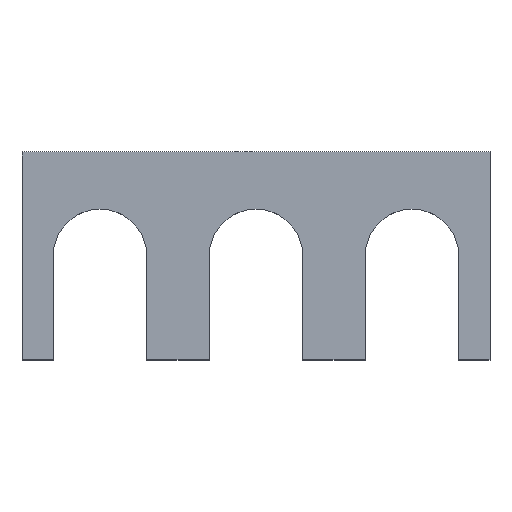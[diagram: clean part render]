
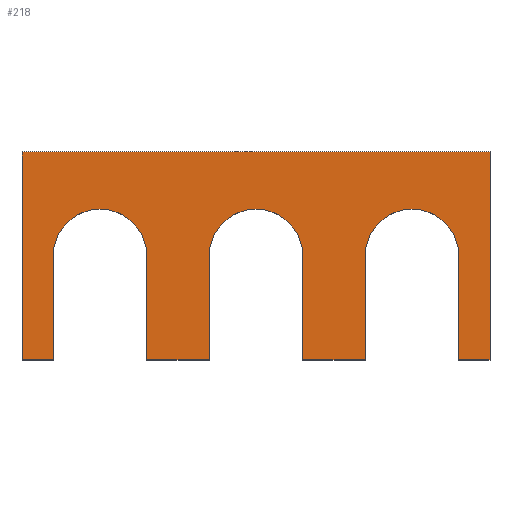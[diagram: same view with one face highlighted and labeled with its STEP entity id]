
A CAD part, top view. The second image highlights one B-rep face of the part: STEP entity #218.
In plain terms, the highlighted planar face has unit normal (0, 0, 1).
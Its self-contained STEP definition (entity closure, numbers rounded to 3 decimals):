
#61=CARTESIAN_POINT('Vertex',(4.5,0.,2.)) ;
#77=CARTESIAN_POINT('Vertex',(4.5,-10.,2.)) ;
#80=CARTESIAN_POINT('Line Origine',(4.5,-5.,2.)) ;
#92=CARTESIAN_POINT('Axis2P3D Location',(0.,0.,2.)) ;
#97=CARTESIAN_POINT('Line Origine',(-7.5,-10.,2.)) ;
#101=CARTESIAN_POINT('Vertex',(-10.5,-10.,2.)) ;
#103=CARTESIAN_POINT('Vertex',(-4.5,-10.,2.)) ;
#106=CARTESIAN_POINT('Line Origine',(-4.5,-5.,2.)) ;
#110=CARTESIAN_POINT('Vertex',(-4.5,0.,2.)) ;
#113=CARTESIAN_POINT('Axis2P3D Location',(0.,0.,2.)) ;
#118=CARTESIAN_POINT('Line Origine',(7.5,-10.,2.)) ;
#122=CARTESIAN_POINT('Vertex',(10.5,-10.,2.)) ;
#125=CARTESIAN_POINT('Line Origine',(10.5,-5.,2.)) ;
#129=CARTESIAN_POINT('Vertex',(10.5,0.,2.)) ;
#132=CARTESIAN_POINT('Axis2P3D Location',(15.,0.,2.)) ;
#136=CARTESIAN_POINT('Vertex',(19.5,0.,2.)) ;
#139=CARTESIAN_POINT('Line Origine',(19.5,-5.,2.)) ;
#143=CARTESIAN_POINT('Vertex',(19.5,-10.,2.)) ;
#146=CARTESIAN_POINT('Line Origine',(21.,-10.,2.)) ;
#150=CARTESIAN_POINT('Vertex',(22.5,-10.,2.)) ;
#153=CARTESIAN_POINT('Line Origine',(22.5,0.,2.)) ;
#157=CARTESIAN_POINT('Vertex',(22.5,10.,2.)) ;
#160=CARTESIAN_POINT('Line Origine',(0.,10.,2.)) ;
#164=CARTESIAN_POINT('Vertex',(-22.5,10.,2.)) ;
#167=CARTESIAN_POINT('Line Origine',(-22.5,0.,2.)) ;
#171=CARTESIAN_POINT('Vertex',(-22.5,-10.,2.)) ;
#174=CARTESIAN_POINT('Line Origine',(-21.,-10.,2.)) ;
#178=CARTESIAN_POINT('Vertex',(-19.5,-10.,2.)) ;
#181=CARTESIAN_POINT('Line Origine',(-19.5,-5.,2.)) ;
#185=CARTESIAN_POINT('Vertex',(-19.5,0.,2.)) ;
#188=CARTESIAN_POINT('Axis2P3D Location',(-15.,0.,2.)) ;
#192=CARTESIAN_POINT('Vertex',(-10.5,0.,2.)) ;
#195=CARTESIAN_POINT('Line Origine',(-10.5,-5.,2.)) ;
#81=DIRECTION('Vector Direction',(0.,1.,0.)) ;
#93=DIRECTION('Axis2P3D Direction',(0.,0.,1.)) ;
#94=DIRECTION('Axis2P3D XDirection',(1.,0.,0.)) ;
#98=DIRECTION('Vector Direction',(-1.,0.,0.)) ;
#107=DIRECTION('Vector Direction',(0.,1.,0.)) ;
#114=DIRECTION('Axis2P3D Direction',(0.,0.,1.)) ;
#119=DIRECTION('Vector Direction',(-1.,0.,0.)) ;
#126=DIRECTION('Vector Direction',(0.,1.,0.)) ;
#133=DIRECTION('Axis2P3D Direction',(0.,0.,1.)) ;
#140=DIRECTION('Vector Direction',(0.,1.,0.)) ;
#147=DIRECTION('Vector Direction',(-1.,0.,0.)) ;
#154=DIRECTION('Vector Direction',(0.,1.,0.)) ;
#161=DIRECTION('Vector Direction',(1.,0.,0.)) ;
#168=DIRECTION('Vector Direction',(0.,-1.,0.)) ;
#175=DIRECTION('Vector Direction',(-1.,0.,0.)) ;
#182=DIRECTION('Vector Direction',(0.,1.,0.)) ;
#189=DIRECTION('Axis2P3D Direction',(0.,0.,1.)) ;
#196=DIRECTION('Vector Direction',(0.,1.,0.)) ;
#95=AXIS2_PLACEMENT_3D('Plane Axis2P3D',#92,#93,#94) ;
#115=AXIS2_PLACEMENT_3D('Circle Axis2P3D',#113,#114,$) ;
#134=AXIS2_PLACEMENT_3D('Circle Axis2P3D',#132,#133,$) ;
#190=AXIS2_PLACEMENT_3D('Circle Axis2P3D',#188,#189,$) ;
#201=ORIENTED_EDGE('',*,*,#105,.T.) ;
#202=ORIENTED_EDGE('',*,*,#112,.T.) ;
#203=ORIENTED_EDGE('',*,*,#117,.F.) ;
#204=ORIENTED_EDGE('',*,*,#84,.F.) ;
#205=ORIENTED_EDGE('',*,*,#124,.T.) ;
#206=ORIENTED_EDGE('',*,*,#131,.T.) ;
#207=ORIENTED_EDGE('',*,*,#138,.F.) ;
#208=ORIENTED_EDGE('',*,*,#145,.F.) ;
#209=ORIENTED_EDGE('',*,*,#152,.T.) ;
#210=ORIENTED_EDGE('',*,*,#159,.T.) ;
#211=ORIENTED_EDGE('',*,*,#166,.T.) ;
#212=ORIENTED_EDGE('',*,*,#173,.T.) ;
#213=ORIENTED_EDGE('',*,*,#180,.T.) ;
#214=ORIENTED_EDGE('',*,*,#187,.T.) ;
#215=ORIENTED_EDGE('',*,*,#194,.F.) ;
#216=ORIENTED_EDGE('',*,*,#199,.F.) ;
#82=VECTOR('Line Direction',#81,1.) ;
#99=VECTOR('Line Direction',#98,1.) ;
#108=VECTOR('Line Direction',#107,1.) ;
#120=VECTOR('Line Direction',#119,1.) ;
#127=VECTOR('Line Direction',#126,1.) ;
#141=VECTOR('Line Direction',#140,1.) ;
#148=VECTOR('Line Direction',#147,1.) ;
#155=VECTOR('Line Direction',#154,1.) ;
#162=VECTOR('Line Direction',#161,1.) ;
#169=VECTOR('Line Direction',#168,1.) ;
#176=VECTOR('Line Direction',#175,1.) ;
#183=VECTOR('Line Direction',#182,1.) ;
#197=VECTOR('Line Direction',#196,1.) ;
#218=ADVANCED_FACE('PartBody',(#217),#96,.T.) ;
#116=CIRCLE('generated circle',#115,4.5) ;
#135=CIRCLE('generated circle',#134,4.5) ;
#191=CIRCLE('generated circle',#190,4.5) ;
#84=EDGE_CURVE('',#78,#62,#83,.T.) ;
#105=EDGE_CURVE('',#102,#104,#100,.F.) ;
#112=EDGE_CURVE('',#104,#111,#109,.T.) ;
#117=EDGE_CURVE('',#62,#111,#116,.T.) ;
#124=EDGE_CURVE('',#78,#123,#121,.F.) ;
#131=EDGE_CURVE('',#123,#130,#128,.T.) ;
#138=EDGE_CURVE('',#137,#130,#135,.T.) ;
#145=EDGE_CURVE('',#144,#137,#142,.T.) ;
#152=EDGE_CURVE('',#144,#151,#149,.F.) ;
#159=EDGE_CURVE('',#151,#158,#156,.T.) ;
#166=EDGE_CURVE('',#158,#165,#163,.F.) ;
#173=EDGE_CURVE('',#165,#172,#170,.T.) ;
#180=EDGE_CURVE('',#172,#179,#177,.F.) ;
#187=EDGE_CURVE('',#179,#186,#184,.T.) ;
#194=EDGE_CURVE('',#193,#186,#191,.T.) ;
#199=EDGE_CURVE('',#102,#193,#198,.T.) ;
#200=EDGE_LOOP('',(#201,#202,#203,#204,#205,#206,#207,#208,#209,#210,#211,#212,#213,#214,#215,#216)) ;
#217=FACE_OUTER_BOUND('',#200,.T.) ;
#83=LINE('Line',#80,#82) ;
#100=LINE('Line',#97,#99) ;
#109=LINE('Line',#106,#108) ;
#121=LINE('Line',#118,#120) ;
#128=LINE('Line',#125,#127) ;
#142=LINE('Line',#139,#141) ;
#149=LINE('Line',#146,#148) ;
#156=LINE('Line',#153,#155) ;
#163=LINE('Line',#160,#162) ;
#170=LINE('Line',#167,#169) ;
#177=LINE('Line',#174,#176) ;
#184=LINE('Line',#181,#183) ;
#198=LINE('Line',#195,#197) ;
#96=PLANE('Plane',#95) ;
#62=VERTEX_POINT('',#61) ;
#78=VERTEX_POINT('',#77) ;
#102=VERTEX_POINT('',#101) ;
#104=VERTEX_POINT('',#103) ;
#111=VERTEX_POINT('',#110) ;
#123=VERTEX_POINT('',#122) ;
#130=VERTEX_POINT('',#129) ;
#137=VERTEX_POINT('',#136) ;
#144=VERTEX_POINT('',#143) ;
#151=VERTEX_POINT('',#150) ;
#158=VERTEX_POINT('',#157) ;
#165=VERTEX_POINT('',#164) ;
#172=VERTEX_POINT('',#171) ;
#179=VERTEX_POINT('',#178) ;
#186=VERTEX_POINT('',#185) ;
#193=VERTEX_POINT('',#192) ;
